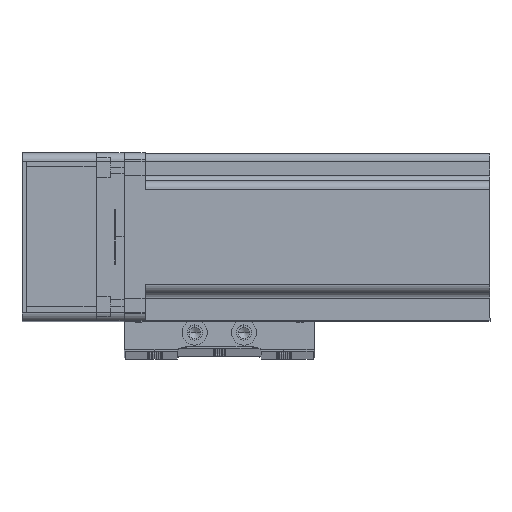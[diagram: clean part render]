
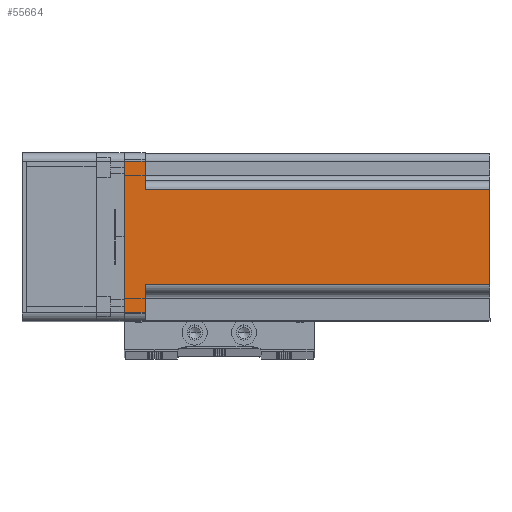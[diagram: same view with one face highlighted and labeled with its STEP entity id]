
A CAD part, top view. The second image highlights one B-rep face of the part: STEP entity #55664.
In plain terms, the highlighted planar face has unit normal (0, 0, 1) as drawn and (0, 1, 0) by its records, which use the part's own axes.
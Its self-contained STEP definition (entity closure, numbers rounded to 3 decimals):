
#597 = VERTEX_POINT ( 'NONE', #59228 ) ;
#1304 = EDGE_LOOP ( 'NONE', ( #34105, #31907, #30845, #17952, #2147, #60875, #35625, #17398 ) ) ;
#1424 = DIRECTION ( 'NONE',  ( 1., 0., 0. ) ) ;
#1682 = DIRECTION ( 'NONE',  ( 1., 0., 0. ) ) ;
#2147 = ORIENTED_EDGE ( 'NONE', *, *, #20347, .F. ) ;
#2804 = VECTOR ( 'NONE', #59943, 1000. ) ;
#3861 = VERTEX_POINT ( 'NONE', #13689 ) ;
#5440 = CARTESIAN_POINT ( 'NONE',  ( -17., 30., 130.7 ) ) ;
#6760 = VERTEX_POINT ( 'NONE', #57050 ) ;
#7777 = EDGE_CURVE ( 'NONE', #6760, #3861, #48928, .T. ) ;
#12770 = DIRECTION ( 'NONE',  ( 0., 0., -1. ) ) ;
#13689 = CARTESIAN_POINT ( 'NONE',  ( -27., 30., 7.5 ) ) ;
#15044 = LINE ( 'NONE', #5440, #39510 ) ;
#16672 = VECTOR ( 'NONE', #33832, 1000. ) ;
#17398 = ORIENTED_EDGE ( 'NONE', *, *, #7777, .T. ) ;
#17952 = ORIENTED_EDGE ( 'NONE', *, *, #63222, .T. ) ;
#19304 = DIRECTION ( 'NONE',  ( -1., 0., 0. ) ) ;
#20347 = EDGE_CURVE ( 'NONE', #51366, #26799, #60695, .T. ) ;
#20351 = VERTEX_POINT ( 'NONE', #51896 ) ;
#21724 = VECTOR ( 'NONE', #61784, 1000. ) ;
#22061 = EDGE_CURVE ( 'NONE', #3861, #20351, #29421, .T. ) ;
#24484 = CARTESIAN_POINT ( 'NONE',  ( -27., 30., 130.7 ) ) ;
#25732 = CARTESIAN_POINT ( 'NONE',  ( 27., 30., 130.7 ) ) ;
#25881 = PLANE ( 'NONE',  #43179 ) ;
#25899 = FACE_OUTER_BOUND ( 'NONE', #1304, .T. ) ;
#26799 = VERTEX_POINT ( 'NONE', #28373 ) ;
#28373 = CARTESIAN_POINT ( 'NONE',  ( 17., 30., 7.5 ) ) ;
#28851 = LINE ( 'NONE', #25732, #2804 ) ;
#28911 = CARTESIAN_POINT ( 'NONE',  ( 30., 30., 0. ) ) ;
#29421 = LINE ( 'NONE', #30749, #60039 ) ;
#29649 = LINE ( 'NONE', #28911, #16672 ) ;
#29833 = DIRECTION ( 'NONE',  ( 0., 0., 1. ) ) ;
#30749 = CARTESIAN_POINT ( 'NONE',  ( -20., 30., 7.5 ) ) ;
#30845 = ORIENTED_EDGE ( 'NONE', *, *, #37999, .F. ) ;
#31026 = DIRECTION ( 'NONE',  ( 0., -1., 0. ) ) ;
#31907 = ORIENTED_EDGE ( 'NONE', *, *, #42586, .T. ) ;
#33832 = DIRECTION ( 'NONE',  ( -1., 0., 0. ) ) ;
#34105 = ORIENTED_EDGE ( 'NONE', *, *, #22061, .T. ) ;
#35625 = ORIENTED_EDGE ( 'NONE', *, *, #48037, .T. ) ;
#35895 = VECTOR ( 'NONE', #44081, 1000. ) ;
#37999 = EDGE_CURVE ( 'NONE', #53245, #49094, #58876, .T. ) ;
#39510 = VECTOR ( 'NONE', #29833, 1000. ) ;
#42015 = CARTESIAN_POINT ( 'NONE',  ( 17., 30., 130.7 ) ) ;
#42301 = CARTESIAN_POINT ( 'NONE',  ( 20., 30., 7.5 ) ) ;
#42551 = CARTESIAN_POINT ( 'NONE',  ( 27., 30., 7.5 ) ) ;
#42586 = EDGE_CURVE ( 'NONE', #20351, #49094, #15044, .T. ) ;
#43179 = AXIS2_PLACEMENT_3D ( 'NONE', #60323, #31026, #1682 ) ;
#44081 = DIRECTION ( 'NONE',  ( 0., 0., 1. ) ) ;
#44321 = VECTOR ( 'NONE', #19304, 1000. ) ;
#45036 = EDGE_CURVE ( 'NONE', #51366, #597, #28851, .T. ) ;
#46973 = CARTESIAN_POINT ( 'NONE',  ( 17., 30., 130.7 ) ) ;
#48037 = EDGE_CURVE ( 'NONE', #597, #6760, #29649, .T. ) ;
#48558 = CARTESIAN_POINT ( 'NONE',  ( 30., 30., 130.7 ) ) ;
#48928 = LINE ( 'NONE', #24484, #35895 ) ;
#49094 = VERTEX_POINT ( 'NONE', #56092 ) ;
#51366 = VERTEX_POINT ( 'NONE', #42551 ) ;
#51896 = CARTESIAN_POINT ( 'NONE',  ( -17., 30., 7.5 ) ) ;
#52602 = VECTOR ( 'NONE', #12770, 1000. ) ;
#53245 = VERTEX_POINT ( 'NONE', #42015 ) ;
#54145 = LINE ( 'NONE', #46973, #52602 ) ;
#55664 = ADVANCED_FACE ( 'NONE', ( #25899 ), #25881, .F. ) ;
#56092 = CARTESIAN_POINT ( 'NONE',  ( -17., 30., 130.7 ) ) ;
#57050 = CARTESIAN_POINT ( 'NONE',  ( -27., 30., 0. ) ) ;
#58876 = LINE ( 'NONE', #48558, #44321 ) ;
#59228 = CARTESIAN_POINT ( 'NONE',  ( 27., 30., 0. ) ) ;
#59943 = DIRECTION ( 'NONE',  ( 0., 0., -1. ) ) ;
#60039 = VECTOR ( 'NONE', #1424, 1000. ) ;
#60323 = CARTESIAN_POINT ( 'NONE',  ( 30., 30., 130.7 ) ) ;
#60695 = LINE ( 'NONE', #42301, #21724 ) ;
#60875 = ORIENTED_EDGE ( 'NONE', *, *, #45036, .T. ) ;
#61784 = DIRECTION ( 'NONE',  ( -1., 0., 0. ) ) ;
#63222 = EDGE_CURVE ( 'NONE', #53245, #26799, #54145, .T. ) ;
